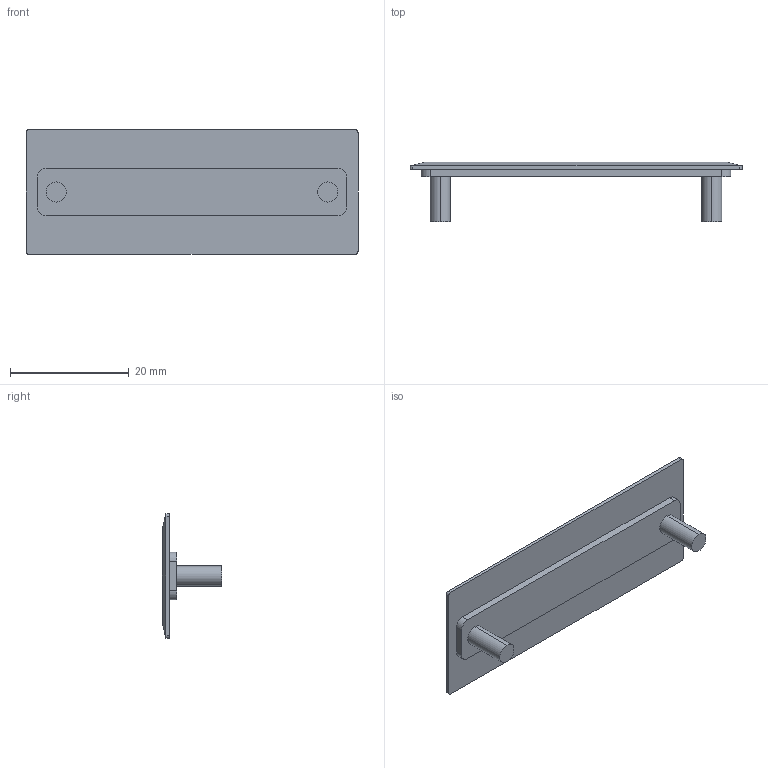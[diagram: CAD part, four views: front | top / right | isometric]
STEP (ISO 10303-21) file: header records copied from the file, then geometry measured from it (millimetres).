
FILE_DESCRIPTION (( 'STEP AP214' ), '1' );
FILE_NAME ('Abdeckkappe_KD50000400.STEP', '2014-07-09T10:05:36', ( '' ), ( '' ), 'SwSTEP 2.0', 'SolidWorks 2013', '' );
FILE_SCHEMA (( 'AUTOMOTIVE_DESIGN' ));
Length unit declared in the file: millimetre
Products named in the file (1): Abdeckkappe_KD50000400
Bounding box: 56 x 10 x 21 mm (x, y, z)
Volume: 1938.2 mm3; surface area: 2757.9 mm2
Topology: 1 solids, 1 shells, 33 faces, 80 edges, 48 vertices
Faces by surface type: plane 17, cylinder 12, cone 4
Entity records: 964 total; most frequent: DIRECTION 168, CARTESIAN_POINT 158, ORIENTED_EDGE 152, EDGE_CURVE 76, AXIS2_PLACEMENT_3D 58, LINE 52, VECTOR 52, VERTEX_POINT 48
